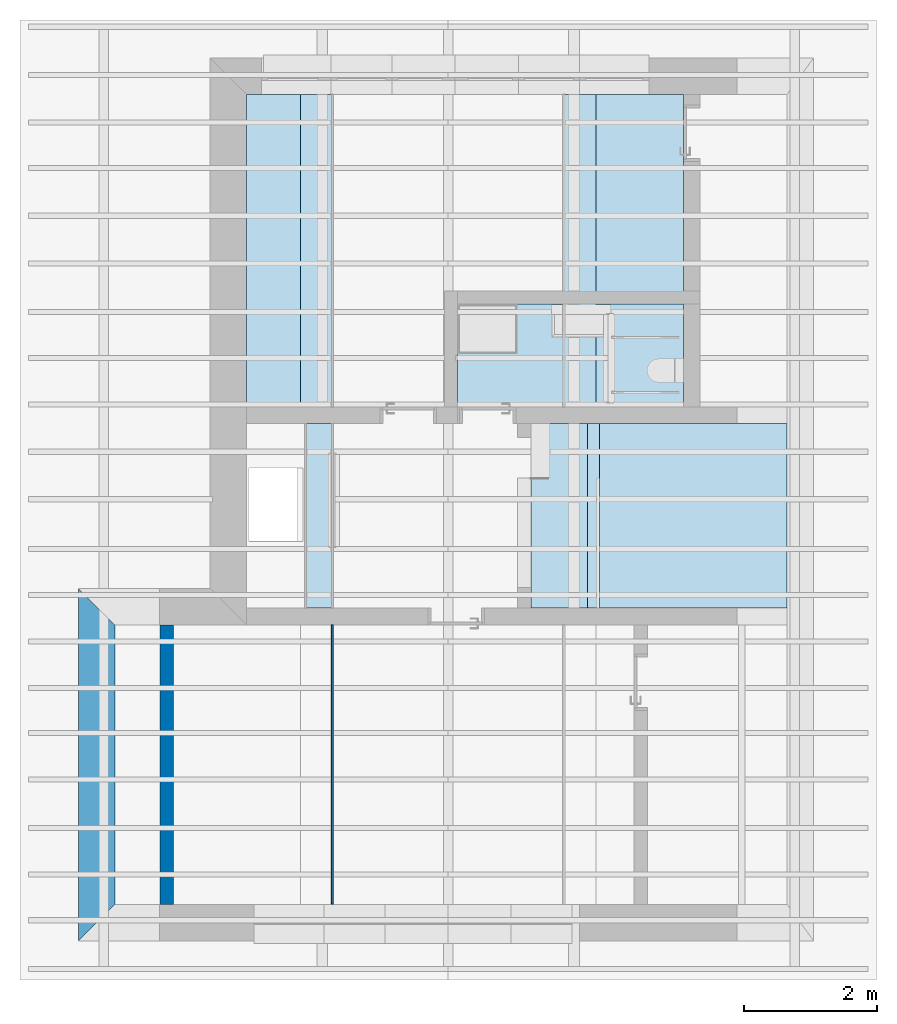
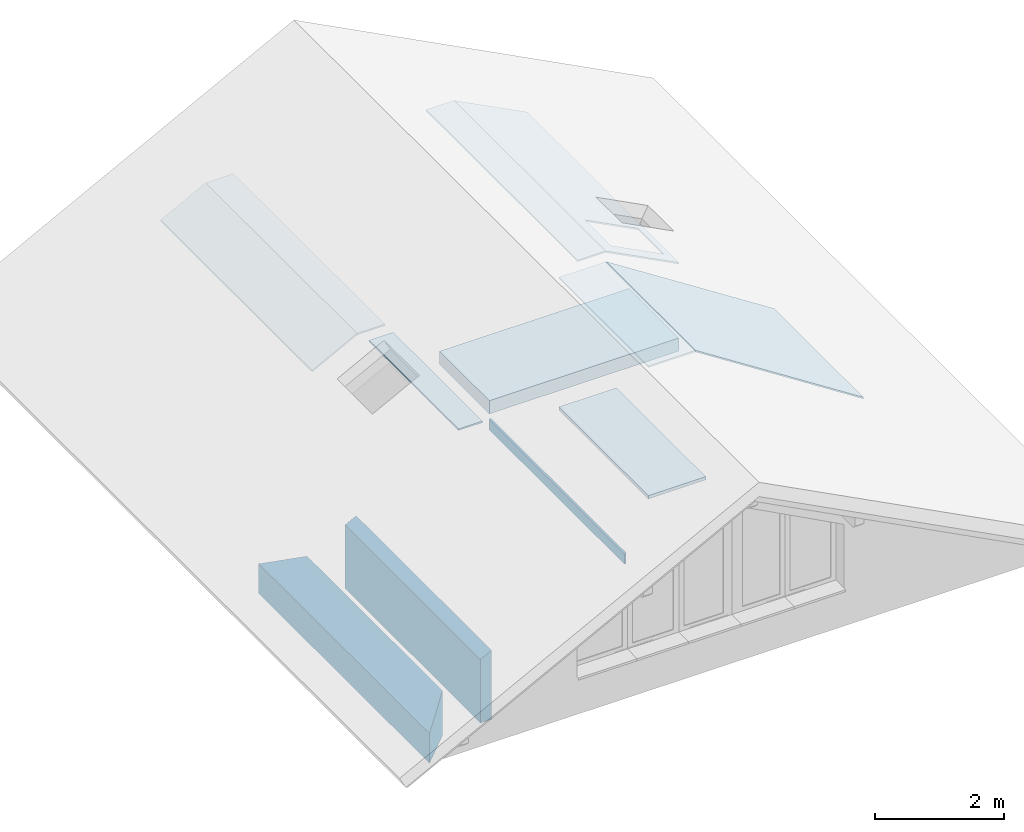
# One storey, part 3 of 18: 9 slabs, 3 walls, 1 opening.
"""IFC2X3 building model written with IfcOpenShell, lengths in metres."""

from ifc_helpers import new_model, entity, si_unit, converted_unit, derived_unit, direction, frame, frame_2d, origin, place, context, subcontext, project, spatial, polyline, rectangle, outline, extrude, boolean, clip, halfspace, bounded_halfspace, material, layer, layer_set, layer_usage, type_object, element, save


model = new_model("IFC2X3")

# Units and contexts
model_context = context("Model", 3, precision=1e-05, world=origin(), true_north=direction((6.123233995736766e-17, 1.0)))
body_context = subcontext(model_context, "Body", "Model", "MODEL_VIEW")
ifc_project = project(units=[si_unit("LENGTHUNIT", "METRE"), si_unit("AREAUNIT", "SQUARE_METRE"), si_unit("VOLUMEUNIT", "CUBIC_METRE"), si_unit("POWERUNIT", "WATT"), derived_unit("USERDEFINED", [(si_unit("MASSUNIT", "GRAM", prefix="KILO"), 1), (si_unit("TIMEUNIT", "SECOND"), -3)]), derived_unit("THERMALRESISTANCEUNIT", [(si_unit("MASSUNIT", "GRAM", prefix="KILO"), -1), (si_unit("TIMEUNIT", "SECOND"), 3), (si_unit("THERMODYNAMICTEMPERATUREUNIT", "KELVIN"), 1)]), derived_unit("USERDEFINED", [(si_unit("MASSUNIT", "GRAM", prefix="KILO"), 1), (si_unit("TIMEUNIT", "SECOND"), -2), (si_unit("THERMODYNAMICTEMPERATUREUNIT", "KELVIN"), -1)]), derived_unit("THERMALTRANSMITTANCEUNIT", [(si_unit("MASSUNIT", "GRAM", prefix="KILO"), 1), (si_unit("TIMEUNIT", "SECOND"), -3), (si_unit("THERMODYNAMICTEMPERATUREUNIT", "KELVIN"), -1)]), converted_unit("PLANEANGLEUNIT", "DEGREE", entity("IfcPlaneAngleMeasure", 0.017453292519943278), si_unit("PLANEANGLEUNIT", "RADIAN"), dimensions=[0, 0, 0, 0, 0, 0, 0]), derived_unit("MOMENTOFINERTIAUNIT", [(si_unit("LENGTHUNIT", "METRE"), 4)])], contexts=[model_context])

# Site, building, storey
site_placement = place(None, origin())
site = spatial("IfcSite", under=ifc_project, at=site_placement, Name="Default", CompositionType="ELEMENT")
building_placement = place(site_placement, origin())
building = spatial("IfcBuilding", under=site, at=building_placement, CompositionType="ELEMENT")
storey_placement = place(building_placement, frame((0.0, 0.0, 5.4)))
storey = spatial("IfcBuildingStorey", under=building, at=storey_placement, Name="1. Obergeschoss", CompositionType="ELEMENT", Elevation=5.4)

# Slabs
ifc_material_1 = material(Name="Fußboden - Parkett Roteiche")
ifc_layer_1 = layer(ifc_material_1, 0.06)
ifc_layer_set_1 = layer_set([ifc_layer_1], Name="Geschossdecke:FB 100 Vorsprung")
ifc_layer_usage_1 = layer_usage(ifc_layer_set_1, "AXIS3", "POSITIVE", 0.0)
slab_type_1 = type_object("IfcSlabType", Name="Geschossdecke:FB 100 Vorsprung", PredefinedType="FLOOR", material=ifc_layer_set_1)
slab_1_placement = place(storey_placement, origin())
element("IfcSlab", 1, at=slab_1_placement, inside=storey, type_object=slab_type_1, material=ifc_layer_usage_1, Name="Geschossdecke:FB 100 Vorsprung", ObjectType="Geschossdecke:FB 100 Vorsprung", PredefinedType="FLOOR", context=body_context, shape_type="SweptSolid", body=[
    extrude(rectangle(XDim=2.7799999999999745, YDim=1.0299999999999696, at=frame_2d((0.0, 2.1649348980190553e-15), x_axis=(1.0, 0.0))), frame((34.88375489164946, 21.69227237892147, -0.3499999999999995), z_axis=(0.0, 0.0, -1.0), x_axis=(0.0, 1.0, 0.0)), (0.0, 0.0, 1.0), 0.060000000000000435),
])
ifc_material_2 = material(Name="Trockenbau - Gipsplatte")
ifc_layer_2 = layer(ifc_material_2, 0.03)
ifc_layer_set_2 = layer_set([ifc_layer_2], Name="Geschossdecke:Decke 1OG 30")
ifc_layer_usage_2 = layer_usage(ifc_layer_set_2, "AXIS3", "POSITIVE", 0.0)
slab_type_2 = type_object("IfcSlabType", Name="Geschossdecke:Decke 1OG 30", PredefinedType="FLOOR", material=ifc_layer_set_2)
slab_2_placement = place(storey_placement, origin())
element("IfcSlab", 2, at=slab_2_placement, inside=storey, type_object=slab_type_2, material=ifc_layer_usage_2, Name="Geschossdecke:Decke 1OG 30", ObjectType="Geschossdecke:Decke 1OG 30", PredefinedType="FLOOR", context=body_context, shape_type="SweptSolid", body=[
    extrude(rectangle(XDim=4.710000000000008, YDim=0.4999999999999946, at=frame_2d((2.220446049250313e-15, -2.1649348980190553e-15), x_axis=(1.0, 0.0))), frame((31.144014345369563, 25.68727237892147, 2.106853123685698), z_axis=(0.0, 0.0, -1.0), x_axis=(0.0, 1.0, 0.0)), (0.0, 0.0, 1.0), 0.029999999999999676),
])
ifc_layer_usage_3 = layer_usage(ifc_layer_set_2, "AXIS3", "POSITIVE", 0.0)
slab_3_placement = place(storey_placement, origin())
element("IfcSlab", 3, at=slab_3_placement, inside=storey, type_object=slab_type_2, material=ifc_layer_usage_3, Name="Geschossdecke:Decke 1OG 30", ObjectType="Geschossdecke:Decke 1OG 30", PredefinedType="FLOOR", context=body_context, shape_type="SweptSolid", body=[
    extrude(rectangle(XDim=4.710000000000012, YDim=0.4999999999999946, at=frame_2d((4.440892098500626e-15, -2.1649348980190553e-15), x_axis=(1.0, 0.0))), frame((35.10106672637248, 25.687272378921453, 2.1089604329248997), z_axis=(0.0, 0.0, -1.0), x_axis=(0.0, 1.0, 0.0)), (0.0, 0.0, 1.0), 0.029999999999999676),
])
ifc_layer_usage_4 = layer_usage(ifc_layer_set_2, "AXIS3", "POSITIVE", 0.0)
slab_4_placement = place(storey_placement, origin())
element("IfcSlab", 4, at=slab_4_placement, inside=storey, type_object=slab_type_2, material=ifc_layer_usage_4, Name="Geschossdecke:Decke 1OG 30", ObjectType="Geschossdecke:Decke 1OG 30", PredefinedType="FLOOR", context=body_context, shape_type="SweptSolid", body=[
    extrude(rectangle(XDim=2.779999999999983, YDim=0.4300000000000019, at=frame_2d((0.0, 2.1649348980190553e-15), x_axis=(1.0, 0.0))), frame((31.179014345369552, 21.692272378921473, 2.106853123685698), z_axis=(0.0, 0.0, -1.0), x_axis=(0.0, 1.0, 0.0)), (0.0, 0.0, 1.0), 0.029999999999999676),
])
ifc_layer_usage_5 = layer_usage(ifc_layer_set_2, "AXIS3", "POSITIVE", 0.0)
slab_5_placement = place(storey_placement, origin())
element("IfcSlab", 5, at=slab_5_placement, inside=storey, type_object=slab_type_2, material=ifc_layer_usage_5, Name="Geschossdecke:Decke 1OG 30", ObjectType="Geschossdecke:Decke 1OG 30", PredefinedType="FLOOR", context=body_context, shape_type="SweptSolid", body=[
    extrude(rectangle(XDim=2.779999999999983, YDim=0.8481999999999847, at=frame_2d((0.0, -2.1649348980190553e-15), x_axis=(1.0, 0.0))), frame((34.79285489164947, 21.692272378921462, 2.1089604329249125), z_axis=(0.0, 0.0, -1.0), x_axis=(0.0, 1.0, 0.0)), (0.0, 0.0, 1.0), 0.029999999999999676),
])
ifc_layer_3 = layer(ifc_material_2, 0.03)
ifc_layer_set_3 = layer_set([ifc_layer_3], Name="Geschossdecke:1OG Decke 30")
ifc_layer_usage_6 = layer_usage(ifc_layer_set_3, "AXIS3", "POSITIVE", 0.0)
slab_type_3 = type_object("IfcSlabType", Name="Geschossdecke:1OG Decke 30", PredefinedType="FLOOR", material=ifc_layer_set_3)
slab_6_placement = place(storey_placement, origin())
element("IfcSlab", 6, at=slab_6_placement, inside=storey, type_object=slab_type_3, material=ifc_layer_usage_6, Name="Geschossdecke:1OG Decke 30", ObjectType="Geschossdecke:1OG Decke 30", PredefinedType="FLOOR", context=body_context, shape_type="Clipping", body=[
    clip(clip(extrude(outline(polyline([(-2.3550016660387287, -0.4553791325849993), (2.354998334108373, -0.4553791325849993), (2.355001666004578, 0.45536190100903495), (-2.3549983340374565, 0.45537482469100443), (-2.3550016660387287, -0.4553791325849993)])), frame((30.490369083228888, 25.68727237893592, 1.8960716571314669), z_axis=(0.462915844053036, 7.005399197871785e-06, -0.8864022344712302), x_axis=(0.0, 1.0, 7.90318314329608e-06)), (-7.90318314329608e-06, -0.46291584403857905, 0.8864022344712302), 0.03385367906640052), halfspace(frame((30.490367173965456, 25.68727237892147, 1.866068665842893), z_axis=(0.4629158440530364, 7.0053991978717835e-06, -0.88640223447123), x_axis=(0.0, -1.0, -7.90318314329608e-06)), False)), halfspace(frame((30.490367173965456, 25.68727237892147, 1.8960686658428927), z_axis=(-0.4629158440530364, -7.0053991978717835e-06, 0.88640223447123), x_axis=(0.0, -1.0, -7.90318314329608e-06)), False)),
])

# Slab, opening
ifc_layer_usage_7 = layer_usage(ifc_layer_set_3, "AXIS3", "POSITIVE", 0.0)
slab_7_placement = place(storey_placement, origin())
slab_7 = element("IfcSlab", 7, at=slab_7_placement, inside=storey, type_object=slab_type_3, material=ifc_layer_usage_7, Name="Geschossdecke:1OG Decke 30", ObjectType="Geschossdecke:1OG Decke 30", PredefinedType="FLOOR", context=body_context, shape_type="CSG", body=[
    boolean("DIFFERENCE", clip(clip(extrude(outline(polyline([(-2.3549973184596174, -0.739526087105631), (2.3550026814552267, -0.7395260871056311), (2.354997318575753, 0.739526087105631), (-2.3550026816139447, 0.739521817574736), (-2.3549973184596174, -0.739526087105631)])), frame((36.008163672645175, 25.68727237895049, 1.7691756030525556), z_axis=(-0.4587934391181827, 7.022317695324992e-06, -0.8885429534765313), x_axis=(0.0, 1.0, 7.903183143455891e-06)), (-7.903183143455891e-06, 0.45879343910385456, 0.8885429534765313), 0.033771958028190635), halfspace(frame((36.00816177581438, 25.687272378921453, 1.7391707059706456), z_axis=(-0.4587934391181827, 7.02231769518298e-06, -0.8885429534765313), x_axis=(0.0, 1.0, 7.903183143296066e-06)), False)), halfspace(frame((36.00816177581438, 25.687272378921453, 1.7691707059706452), z_axis=(0.4587934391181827, -7.02231769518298e-06, 0.8885429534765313), x_axis=(0.0, 1.0, 7.903183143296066e-06)), False)), extrude(rectangle(XDim=1.0677093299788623, YDim=0.7999825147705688, at=frame_2d((-1.6814977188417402e-10, -9.514611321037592e-14), x_axis=(0.0, 1.0))), frame((36.044517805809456, 23.96728541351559, 1.7203849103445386), z_axis=(0.45879343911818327, -7.022317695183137e-06, 0.8885429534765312), x_axis=(-6.124142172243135e-08, -1.0, -7.871561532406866e-06)), (0.0, 0.0, 1.0), 0.026656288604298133)),
])
opening_placement = place(slab_7_placement, origin())
element("IfcOpeningElement", 8, at=opening_placement, cuts=slab_7, Name="Geschossdecke:1OG Decke 30", ObjectType="Opening", context=body_context, shape_type="SweptSolid", body=[
    extrude(rectangle(XDim=0.7999825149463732, YDim=0.9487056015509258, at=frame_2d((36.05674753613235, 23.96728522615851), x_axis=(-6.124162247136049e-08, -1.0))), frame((0.0, 0.0, 2.1084760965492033)), (0.0, 0.0, -1.0), 0.7086146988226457),
])

# Slabs
ifc_layer_usage_8 = layer_usage(ifc_layer_set_3, "AXIS3", "POSITIVE", 0.0)
slab_8_placement = place(storey_placement, origin())
element("IfcSlab", 9, at=slab_8_placement, inside=storey, type_object=slab_type_3, material=ifc_layer_usage_8, Name="Geschossdecke:1OG Decke 30", ObjectType="Geschossdecke:1OG Decke 30", PredefinedType="FLOOR", context=body_context, shape_type="Clipping", body=[
    clip(clip(extrude(outline(polyline([(-1.389986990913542, -1.7912524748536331), (1.3900130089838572, -1.7912524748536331), (1.3899869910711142, 1.791254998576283), (-1.3900130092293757, 1.7912499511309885), (-1.389986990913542, -1.7912524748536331)])), frame((36.721838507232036, 21.69227237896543, 1.1374013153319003), z_axis=(-0.542386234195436, 1.1249268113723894e-05, -0.8401292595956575), x_axis=(0.0, 1.0, 1.338992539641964e-05)), (-1.338992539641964e-05, 0.5423862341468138, 0.8401292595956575), 0.035721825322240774), halfspace(frame((36.72183744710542, 21.692272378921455, 1.1073937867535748), z_axis=(-0.5423862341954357, 1.1249268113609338e-05, -0.8401292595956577), x_axis=(0.0, 1.0, 1.3389925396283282e-05)), False)), halfspace(frame((36.72183744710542, 21.692272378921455, 1.1373937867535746), z_axis=(0.5423862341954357, -1.1249268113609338e-05, 0.8401292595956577), x_axis=(0.0, 1.0, 1.3389925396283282e-05)), False)),
])
ifc_material_3 = material(Name="Fußboden - Fliese Travertin 500 x 500")
ifc_layer_4 = layer(ifc_material_3, 0.05)
ifc_material_4 = material(Name="Ortbeton - bewehrt")
ifc_layer_5 = layer(ifc_material_4, 0.2)
ifc_layer_set_4 = layer_set([ifc_layer_4, ifc_layer_5], Name="Geschossdecke:Geschossdecke 200 + 50 Bad")
ifc_layer_usage_9 = layer_usage(ifc_layer_set_4, "AXIS3", "POSITIVE", 0.0)
slab_type_4 = type_object("IfcSlabType", Name="Geschossdecke:Geschossdecke 200 + 50 Bad", PredefinedType="FLOOR", material=ifc_layer_set_4)
slab_9_placement = place(storey_placement, origin())
element("IfcSlab", 10, at=slab_9_placement, inside=storey, type_object=slab_type_4, material=ifc_layer_usage_9, Name="Geschossdecke:Geschossdecke 200 + 50 Bad", ObjectType="Geschossdecke:Geschossdecke 200 + 50 Bad", PredefinedType="FLOOR", context=body_context, shape_type="SweptSolid", body=[
    extrude(rectangle(XDim=1.5500000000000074, YDim=3.3999999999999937, at=frame_2d((2.1649348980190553e-15, 2.220446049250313e-15), x_axis=(1.0, 0.0))), frame((34.96526057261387, 24.10727237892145, 0.0), z_axis=(0.0, 0.0, -1.0), x_axis=(0.0, 1.0, 0.0)), (0.0, 0.0, 1.0), 0.24999999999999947),
])

# Walls
ifc_material_5 = material(Name="Dämmung - hart")
ifc_layer_6 = layer(ifc_material_5, 0.24999999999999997)
ifc_material_6 = material(Name="Mauerwerk - Ziegel")
ifc_layer_7 = layer(ifc_material_6, 0.29999999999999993)
ifc_layer_set_5 = layer_set([ifc_layer_6, ifc_layer_7], Name="Basiswand:Ziegel+WD hart 300+250")
ifc_layer_usage_10 = layer_usage(ifc_layer_set_5, "AXIS2", "POSITIVE", -0.27499999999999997)
wall_type_1 = type_object("IfcWallType", Name="Basiswand:Ziegel+WD hart 300+250", PredefinedType="STANDARD", material=ifc_layer_set_5)
wall_1_placement = place(storey_placement, frame((27.82584124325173, 20.602272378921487, 0.0), z_axis=(0.0, 0.0, 1.0), x_axis=(0.0, -1.0, 0.0)))
element("IfcWallStandardCase", 11, at=wall_1_placement, inside=storey, type_object=wall_type_1, material=ifc_layer_usage_10, Name="Basiswand:Ziegel+WD hart 300+250", ObjectType="Basiswand:Ziegel+WD hart 300+250", context=body_context, shape_type="Clipping", body=[
    clip(extrude(outline(polyline([(5.310000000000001, -0.275000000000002), (4.760000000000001, 0.27499999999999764), (0.5500000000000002, 0.2749999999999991), (0.0, -0.27500000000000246), (5.310000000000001, -0.275000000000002)])), origin(), (0.0, 0.0, 1.0), 0.8510321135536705), bounded_halfspace(frame((0.0, -0.2750000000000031, 0.5647202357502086), z_axis=(0.0, -0.4617486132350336, 0.8870108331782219), x_axis=(1.0, 0.0, 0.0)), False, frame((0.0, -0.2750000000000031, 0.5647202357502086)), polyline([(0.0, 0.0), (5.310000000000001, 0.0), (4.760000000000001, 0.55), (0.5500000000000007, 0.5500000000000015), (0.0, 0.0)]))),
])
ifc_layer_8 = layer(ifc_material_6, 0.2)
ifc_layer_set_6 = layer_set([ifc_layer_8], Name="Basiswand:Ziegel 200")
ifc_layer_usage_11 = layer_usage(ifc_layer_set_6, "AXIS2", "POSITIVE", -0.1)
wall_type_2 = type_object("IfcWallType", Name="Basiswand:Ziegel 200", PredefinedType="STANDARD", material=ifc_layer_set_6)
wall_2_placement = place(storey_placement, frame((28.881446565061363, 20.052272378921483, 0.0), z_axis=(0.0, 0.0, 1.0), x_axis=(0.0, -1.0, 0.0)))
element("IfcWallStandardCase", 12, at=wall_2_placement, inside=storey, type_object=wall_type_2, material=ifc_layer_usage_11, Name="Basiswand:Ziegel 200", ObjectType="Basiswand:Ziegel 200", context=body_context, shape_type="Clipping", body=[
    clip(extrude(rectangle(XDim=4.209999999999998, YDim=0.19999999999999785, at=frame_2d((2.104999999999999, 6.245004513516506e-17), x_axis=(-1.0, 0.0))), origin(), (0.0, 0.0, 1.0), 1.3094462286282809), bounded_halfspace(frame((0.0, -0.10000000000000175, 1.2053328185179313), z_axis=(0.0, -0.4617486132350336, 0.8870108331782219), x_axis=(1.0, 0.0, 0.0)), False, frame((0.0, -0.10000000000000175, 1.2053328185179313)), polyline([(0.0, 0.0), (4.209999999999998, 0.0), (4.209999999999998, 0.2000000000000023), (0.0, 0.20000000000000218), (0.0, 0.0)]))),
])
ifc_layer_9 = layer(ifc_material_2, 0.03)
ifc_layer_set_7 = layer_set([ifc_layer_9], Name="Basiswand:1OG Wand 30")
ifc_layer_usage_12 = layer_usage(ifc_layer_set_7, "AXIS2", "NEGATIVE", 0.015)
wall_type_3 = type_object("IfcWallType", Name="Basiswand:1OG Wand 30", PredefinedType="STANDARD", material=ifc_layer_set_7)
wall_3_placement = place(storey_placement, frame((31.379014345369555, 20.052272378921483, 2.106853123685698), z_axis=(0.0, 0.0, 1.0), x_axis=(0.0, -1.0, 0.0)))
element("IfcWallStandardCase", 13, at=wall_3_placement, inside=storey, type_object=wall_type_3, material=ifc_layer_usage_12, Name="Basiswand:1OG Wand 30", ObjectType="Basiswand:1OG Wand 30", context=body_context, shape_type="Clipping", body=[
    clip(extrude(rectangle(XDim=4.210000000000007, YDim=0.030000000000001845, at=frame_2d((2.1050000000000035, 0.0), x_axis=(-1.0, 0.0))), origin(), (0.0, 0.0, 1.0), 0.21097205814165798), bounded_halfspace(frame((0.0, -0.014999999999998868, 0.19580232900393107), z_axis=(7.890412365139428e-06, -0.4512481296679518, 0.8923985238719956), x_axis=(1.0, 0.0, -8.84180346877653e-06)), False, frame((0.0, -0.014999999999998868, 0.19580232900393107), z_axis=(7.890412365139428e-06, -0.4512481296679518, 0.8923985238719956), x_axis=(1.0, 0.0, -8.84180346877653e-06)), polyline([(0.0, 0.0), (4.717623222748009, 0.0), (4.717623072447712, 0.03767068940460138), (-1.5030029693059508e-07, 0.03767068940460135), (0.0, 0.0)]))),
])

save(model, "model.ifc")
